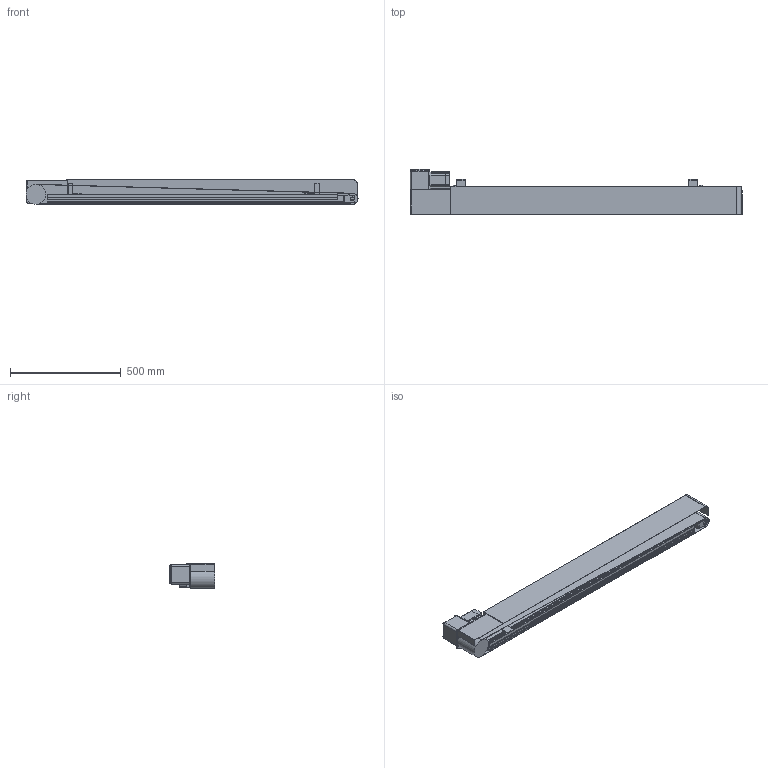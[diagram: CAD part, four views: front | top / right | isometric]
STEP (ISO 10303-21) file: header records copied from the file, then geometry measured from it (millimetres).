
FILE_DESCRIPTION( (''), '2;1');
FILE_NAME ('WEB-SB3-303-40-150-L-IVH-180.stp','2025-07-02T14:47:49',(''),(''),'spGate 20.6.2 (****-****-****-****)','','');
FILE_SCHEMA (('AUTOMOTIVE_DESIGN'));
Length unit declared in the file: millimetre
Products named in the file (24): WEB-SB3-303-40-150-L-IVH-180; TEMP_X_T-prt0; TEMP_X_T-prt1; TEMP_X_T-prt2; TEMP_X_T-prt3; TEMP_X_T-prt4; TEMP_X_T-prt5; TEMP_X_T-prt6; TEMP_X_T-prt7; TEMP_X_T-prt8; TEMP_X_T-prt9; TEMP_X_T-prt10; TEMP_X_T-prt11; TEMP_X_T-prt12; TEMP_X_T-prt13; TEMP_X_T-prt14; TEMP_X_T-prt15; TEMP_X_T-prt16; TEMP_X_T-prt17; TEMP_X_T-prt18; TEMP_X_T-prt19; TEMP_X_T-prt20; TEMP_X_T-prt21; TEMP_X_T-prt22
Assembly tree (23 placements, depth 2):
  WEB-SB3-303-40-150-L-IVH-180
    TEMP_X_T-prt0
    TEMP_X_T-prt1
    TEMP_X_T-prt2
    TEMP_X_T-prt3
    TEMP_X_T-prt4
    TEMP_X_T-prt5
    TEMP_X_T-prt6
    TEMP_X_T-prt7
    TEMP_X_T-prt8
    TEMP_X_T-prt9
    TEMP_X_T-prt10
    TEMP_X_T-prt11
    TEMP_X_T-prt12
    TEMP_X_T-prt13
    TEMP_X_T-prt14
    TEMP_X_T-prt15
    TEMP_X_T-prt16
    TEMP_X_T-prt17
    TEMP_X_T-prt18
    TEMP_X_T-prt19
    TEMP_X_T-prt20
    TEMP_X_T-prt21
    TEMP_X_T-prt22
Bounding box: 1501.34 x 206 x 111.9 mm (x, y, z)
Volume: 4368720.2 mm3; surface area: 2533856.2 mm2
Topology: 23 solids, 23 shells, 534 faces, 1414 edges, 958 vertices
Faces by surface type: plane 411, cylinder 110, bspline 13
Full cylindrical faces by diameter (mm): 2.63 x6, 6 x3, 6.5 x4, 7 x2, 10 x3, 11 x2, 12 x1, 12.2 x4, 12.5 x4, 15 x1, 17 x2, 20 x1, 25 x2, 35 x2, 40 x1, 48.6 x1, 69 x1, 73 x3
Entity records: 28925 total; most frequent: CARTESIAN_POINT 3460, ORIENTED_EDGE 2828, DIRECTION 2801, COLOUR_RGB 1971, PRESENTATION_STYLE_ASSIGNMENT 1971, STYLED_ITEM 1971, EDGE_CURVE 1414, DRAUGHTING_PRE_DEFINED_CURVE_FONT 1414
